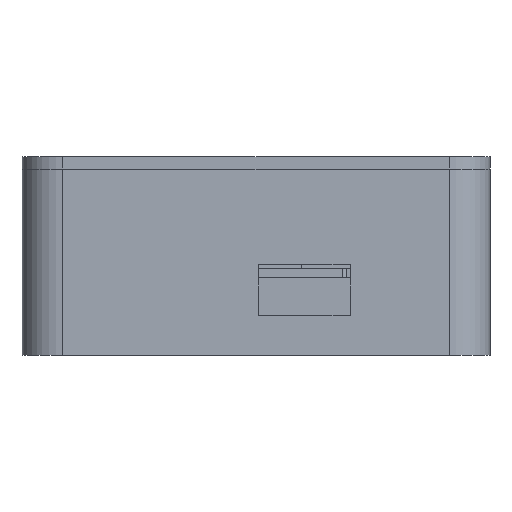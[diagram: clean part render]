
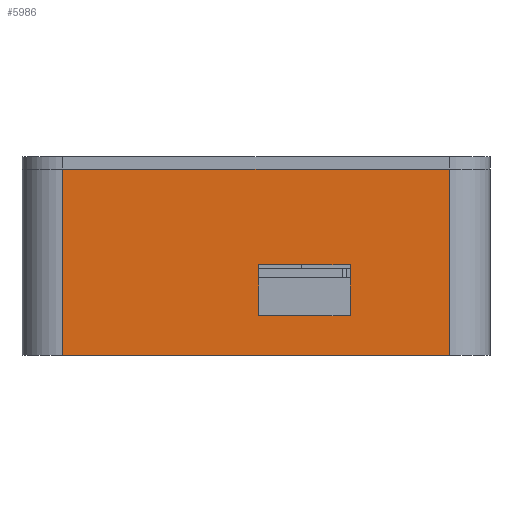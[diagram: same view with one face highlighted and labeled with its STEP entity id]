
A CAD part, front view. The second image highlights one B-rep face of the part: STEP entity #5986.
In plain terms, the highlighted planar face has unit normal (0, -1, 0).
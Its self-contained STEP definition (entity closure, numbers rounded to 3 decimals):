
#74 = PLANE('',#75);
#75 = AXIS2_PLACEMENT_3D('',#76,#77,#78);
#76 = CARTESIAN_POINT('',(-46.,-56.,36.6));
#77 = DIRECTION('',(0.,0.,1.));
#78 = DIRECTION('',(1.,0.,0.));
#102 = CYLINDRICAL_SURFACE('',#103,8.);
#103 = AXIS2_PLACEMENT_3D('',#104,#105,#106);
#104 = CARTESIAN_POINT('',(-38.,-48.,0.));
#105 = DIRECTION('',(0.,0.,1.));
#106 = DIRECTION('',(-1.,-0.,0.));
#130 = PLANE('',#131);
#131 = AXIS2_PLACEMENT_3D('',#132,#133,#134);
#132 = CARTESIAN_POINT('',(-46.,-56.,0.));
#133 = DIRECTION('',(0.,0.,1.));
#134 = DIRECTION('',(1.,0.,0.));
#1727 = VERTEX_POINT('',#1728);
#1728 = CARTESIAN_POINT('',(-38.,-56.,36.6));
#1750 = EDGE_CURVE('',#1727,#1751,#1753,.T.);
#1751 = VERTEX_POINT('',#1752);
#1752 = CARTESIAN_POINT('',(38.,-56.,36.6));
#1753 = SURFACE_CURVE('',#1754,(#1758,#1765),.PCURVE_S1.);
#1754 = LINE('',#1755,#1756);
#1755 = CARTESIAN_POINT('',(-46.,-56.,36.6));
#1756 = VECTOR('',#1757,1.);
#1757 = DIRECTION('',(1.,0.,0.));
#1758 = PCURVE('',#74,#1759);
#1759 = DEFINITIONAL_REPRESENTATION('',(#1760),#1764);
#1760 = LINE('',#1761,#1762);
#1761 = CARTESIAN_POINT('',(0.,0.));
#1762 = VECTOR('',#1763,1.);
#1763 = DIRECTION('',(1.,0.));
#1764 = ( GEOMETRIC_REPRESENTATION_CONTEXT(2) 
PARAMETRIC_REPRESENTATION_CONTEXT() REPRESENTATION_CONTEXT('2D SPACE',''
  ) );
#1765 = PCURVE('',#1766,#1771);
#1766 = PLANE('',#1767);
#1767 = AXIS2_PLACEMENT_3D('',#1768,#1769,#1770);
#1768 = CARTESIAN_POINT('',(-46.,-56.,0.));
#1769 = DIRECTION('',(0.,1.,0.));
#1770 = DIRECTION('',(0.,0.,1.));
#1771 = DEFINITIONAL_REPRESENTATION('',(#1772),#1776);
#1772 = LINE('',#1773,#1774);
#1773 = CARTESIAN_POINT('',(36.6,0.));
#1774 = VECTOR('',#1775,1.);
#1775 = DIRECTION('',(0.,1.));
#1776 = ( GEOMETRIC_REPRESENTATION_CONTEXT(2) 
PARAMETRIC_REPRESENTATION_CONTEXT() REPRESENTATION_CONTEXT('2D SPACE',''
  ) );
#1799 = CYLINDRICAL_SURFACE('',#1800,8.);
#1800 = AXIS2_PLACEMENT_3D('',#1801,#1802,#1803);
#1801 = CARTESIAN_POINT('',(38.,-48.,0.));
#1802 = DIRECTION('',(0.,0.,1.));
#1803 = DIRECTION('',(1.,0.,-0.));
#2784 = VERTEX_POINT('',#2785);
#2785 = CARTESIAN_POINT('',(-38.,-56.,0.));
#2807 = EDGE_CURVE('',#2784,#1727,#2808,.T.);
#2808 = SURFACE_CURVE('',#2809,(#2813,#2820),.PCURVE_S1.);
#2809 = LINE('',#2810,#2811);
#2810 = CARTESIAN_POINT('',(-38.,-56.,0.));
#2811 = VECTOR('',#2812,1.);
#2812 = DIRECTION('',(0.,0.,1.));
#2813 = PCURVE('',#102,#2814);
#2814 = DEFINITIONAL_REPRESENTATION('',(#2815),#2819);
#2815 = LINE('',#2816,#2817);
#2816 = CARTESIAN_POINT('',(1.571,0.));
#2817 = VECTOR('',#2818,1.);
#2818 = DIRECTION('',(0.,1.));
#2819 = ( GEOMETRIC_REPRESENTATION_CONTEXT(2) 
PARAMETRIC_REPRESENTATION_CONTEXT() REPRESENTATION_CONTEXT('2D SPACE',''
  ) );
#2820 = PCURVE('',#1766,#2821);
#2821 = DEFINITIONAL_REPRESENTATION('',(#2822),#2826);
#2822 = LINE('',#2823,#2824);
#2823 = CARTESIAN_POINT('',(0.,8.));
#2824 = VECTOR('',#2825,1.);
#2825 = DIRECTION('',(1.,0.));
#2826 = ( GEOMETRIC_REPRESENTATION_CONTEXT(2) 
PARAMETRIC_REPRESENTATION_CONTEXT() REPRESENTATION_CONTEXT('2D SPACE',''
  ) );
#2889 = EDGE_CURVE('',#2784,#2890,#2892,.T.);
#2890 = VERTEX_POINT('',#2891);
#2891 = CARTESIAN_POINT('',(38.,-56.,0.));
#2892 = SURFACE_CURVE('',#2893,(#2897,#2904),.PCURVE_S1.);
#2893 = LINE('',#2894,#2895);
#2894 = CARTESIAN_POINT('',(-46.,-56.,0.));
#2895 = VECTOR('',#2896,1.);
#2896 = DIRECTION('',(1.,0.,0.));
#2897 = PCURVE('',#130,#2898);
#2898 = DEFINITIONAL_REPRESENTATION('',(#2899),#2903);
#2899 = LINE('',#2900,#2901);
#2900 = CARTESIAN_POINT('',(0.,0.));
#2901 = VECTOR('',#2902,1.);
#2902 = DIRECTION('',(1.,0.));
#2903 = ( GEOMETRIC_REPRESENTATION_CONTEXT(2) 
PARAMETRIC_REPRESENTATION_CONTEXT() REPRESENTATION_CONTEXT('2D SPACE',''
  ) );
#2904 = PCURVE('',#1766,#2905);
#2905 = DEFINITIONAL_REPRESENTATION('',(#2906),#2910);
#2906 = LINE('',#2907,#2908);
#2907 = CARTESIAN_POINT('',(0.,0.));
#2908 = VECTOR('',#2909,1.);
#2909 = DIRECTION('',(0.,1.));
#2910 = ( GEOMETRIC_REPRESENTATION_CONTEXT(2) 
PARAMETRIC_REPRESENTATION_CONTEXT() REPRESENTATION_CONTEXT('2D SPACE',''
  ) );
#5986 = ADVANCED_FACE('',(#5987,#6013),#1766,.F.);
#5987 = FACE_BOUND('',#5988,.F.);
#5988 = EDGE_LOOP('',(#5989,#5990,#5991,#5992));
#5989 = ORIENTED_EDGE('',*,*,#2889,.F.);
#5990 = ORIENTED_EDGE('',*,*,#2807,.T.);
#5991 = ORIENTED_EDGE('',*,*,#1750,.T.);
#5992 = ORIENTED_EDGE('',*,*,#5993,.F.);
#5993 = EDGE_CURVE('',#2890,#1751,#5994,.T.);
#5994 = SURFACE_CURVE('',#5995,(#5999,#6006),.PCURVE_S1.);
#5995 = LINE('',#5996,#5997);
#5996 = CARTESIAN_POINT('',(38.,-56.,0.));
#5997 = VECTOR('',#5998,1.);
#5998 = DIRECTION('',(0.,0.,1.));
#5999 = PCURVE('',#1766,#6000);
#6000 = DEFINITIONAL_REPRESENTATION('',(#6001),#6005);
#6001 = LINE('',#6002,#6003);
#6002 = CARTESIAN_POINT('',(0.,84.));
#6003 = VECTOR('',#6004,1.);
#6004 = DIRECTION('',(1.,0.));
#6005 = ( GEOMETRIC_REPRESENTATION_CONTEXT(2) 
PARAMETRIC_REPRESENTATION_CONTEXT() REPRESENTATION_CONTEXT('2D SPACE',''
  ) );
#6006 = PCURVE('',#1799,#6007);
#6007 = DEFINITIONAL_REPRESENTATION('',(#6008),#6012);
#6008 = LINE('',#6009,#6010);
#6009 = CARTESIAN_POINT('',(-1.571,0.));
#6010 = VECTOR('',#6011,1.);
#6011 = DIRECTION('',(-0.,1.));
#6012 = ( GEOMETRIC_REPRESENTATION_CONTEXT(2) 
PARAMETRIC_REPRESENTATION_CONTEXT() REPRESENTATION_CONTEXT('2D SPACE',''
  ) );
#6013 = FACE_BOUND('',#6014,.F.);
#6014 = EDGE_LOOP('',(#6015,#6043,#6069,#6095));
#6015 = ORIENTED_EDGE('',*,*,#6016,.F.);
#6016 = EDGE_CURVE('',#6017,#6019,#6021,.T.);
#6017 = VERTEX_POINT('',#6018);
#6018 = CARTESIAN_POINT('',(0.5,-56.,17.8));
#6019 = VERTEX_POINT('',#6020);
#6020 = CARTESIAN_POINT('',(18.5,-56.,17.8));
#6021 = SURFACE_CURVE('',#6022,(#6026,#6032),.PCURVE_S1.);
#6022 = LINE('',#6023,#6024);
#6023 = CARTESIAN_POINT('',(-22.75,-56.,17.8));
#6024 = VECTOR('',#6025,1.);
#6025 = DIRECTION('',(1.,0.,0.));
#6026 = PCURVE('',#1766,#6027);
#6027 = DEFINITIONAL_REPRESENTATION('',(#6028),#6031);
#6028 = B_SPLINE_CURVE_WITH_KNOTS('',1,(#6029,#6030),.UNSPECIFIED.,.F.,
  .F.,(2,2),(23.25,41.25),.PIECEWISE_BEZIER_KNOTS.);
#6029 = CARTESIAN_POINT('',(17.8,46.5));
#6030 = CARTESIAN_POINT('',(17.8,64.5));
#6031 = ( GEOMETRIC_REPRESENTATION_CONTEXT(2) 
PARAMETRIC_REPRESENTATION_CONTEXT() REPRESENTATION_CONTEXT('2D SPACE',''
  ) );
#6032 = PCURVE('',#6033,#6038);
#6033 = PLANE('',#6034);
#6034 = AXIS2_PLACEMENT_3D('',#6035,#6036,#6037);
#6035 = CARTESIAN_POINT('',(0.5,-57.,17.8));
#6036 = DIRECTION('',(0.,0.,1.));
#6037 = DIRECTION('',(1.,0.,0.));
#6038 = DEFINITIONAL_REPRESENTATION('',(#6039),#6042);
#6039 = B_SPLINE_CURVE_WITH_KNOTS('',1,(#6040,#6041),.UNSPECIFIED.,.F.,
  .F.,(2,2),(23.25,41.25),.PIECEWISE_BEZIER_KNOTS.);
#6040 = CARTESIAN_POINT('',(0.,1.));
#6041 = CARTESIAN_POINT('',(18.,1.));
#6042 = ( GEOMETRIC_REPRESENTATION_CONTEXT(2) 
PARAMETRIC_REPRESENTATION_CONTEXT() REPRESENTATION_CONTEXT('2D SPACE',''
  ) );
#6043 = ORIENTED_EDGE('',*,*,#6044,.T.);
#6044 = EDGE_CURVE('',#6017,#6045,#6047,.T.);
#6045 = VERTEX_POINT('',#6046);
#6046 = CARTESIAN_POINT('',(0.5,-56.,7.8));
#6047 = SURFACE_CURVE('',#6048,(#6052,#6058),.PCURVE_S1.);
#6048 = LINE('',#6049,#6050);
#6049 = CARTESIAN_POINT('',(0.5,-56.,3.9));
#6050 = VECTOR('',#6051,1.);
#6051 = DIRECTION('',(0.,0.,-1.));
#6052 = PCURVE('',#1766,#6053);
#6053 = DEFINITIONAL_REPRESENTATION('',(#6054),#6057);
#6054 = B_SPLINE_CURVE_WITH_KNOTS('',1,(#6055,#6056),.UNSPECIFIED.,.F.,
  .F.,(2,2),(-13.9,-3.9),.PIECEWISE_BEZIER_KNOTS.);
#6055 = CARTESIAN_POINT('',(17.8,46.5));
#6056 = CARTESIAN_POINT('',(7.8,46.5));
#6057 = ( GEOMETRIC_REPRESENTATION_CONTEXT(2) 
PARAMETRIC_REPRESENTATION_CONTEXT() REPRESENTATION_CONTEXT('2D SPACE',''
  ) );
#6058 = PCURVE('',#6059,#6064);
#6059 = PLANE('',#6060);
#6060 = AXIS2_PLACEMENT_3D('',#6061,#6062,#6063);
#6061 = CARTESIAN_POINT('',(0.5,-57.,7.8));
#6062 = DIRECTION('',(1.,0.,0.));
#6063 = DIRECTION('',(0.,0.,1.));
#6064 = DEFINITIONAL_REPRESENTATION('',(#6065),#6068);
#6065 = B_SPLINE_CURVE_WITH_KNOTS('',1,(#6066,#6067),.UNSPECIFIED.,.F.,
  .F.,(2,2),(-13.9,-3.9),.PIECEWISE_BEZIER_KNOTS.);
#6066 = CARTESIAN_POINT('',(10.,-1.));
#6067 = CARTESIAN_POINT('',(0.,-1.));
#6068 = ( GEOMETRIC_REPRESENTATION_CONTEXT(2) 
PARAMETRIC_REPRESENTATION_CONTEXT() REPRESENTATION_CONTEXT('2D SPACE',''
  ) );
#6069 = ORIENTED_EDGE('',*,*,#6070,.T.);
#6070 = EDGE_CURVE('',#6045,#6071,#6073,.T.);
#6071 = VERTEX_POINT('',#6072);
#6072 = CARTESIAN_POINT('',(18.5,-56.,7.8));
#6073 = SURFACE_CURVE('',#6074,(#6078,#6084),.PCURVE_S1.);
#6074 = LINE('',#6075,#6076);
#6075 = CARTESIAN_POINT('',(-22.75,-56.,7.8));
#6076 = VECTOR('',#6077,1.);
#6077 = DIRECTION('',(1.,0.,0.));
#6078 = PCURVE('',#1766,#6079);
#6079 = DEFINITIONAL_REPRESENTATION('',(#6080),#6083);
#6080 = B_SPLINE_CURVE_WITH_KNOTS('',1,(#6081,#6082),.UNSPECIFIED.,.F.,
  .F.,(2,2),(23.25,41.25),.PIECEWISE_BEZIER_KNOTS.);
#6081 = CARTESIAN_POINT('',(7.8,46.5));
#6082 = CARTESIAN_POINT('',(7.8,64.5));
#6083 = ( GEOMETRIC_REPRESENTATION_CONTEXT(2) 
PARAMETRIC_REPRESENTATION_CONTEXT() REPRESENTATION_CONTEXT('2D SPACE',''
  ) );
#6084 = PCURVE('',#6085,#6090);
#6085 = PLANE('',#6086);
#6086 = AXIS2_PLACEMENT_3D('',#6087,#6088,#6089);
#6087 = CARTESIAN_POINT('',(0.5,-57.,7.8));
#6088 = DIRECTION('',(0.,0.,1.));
#6089 = DIRECTION('',(1.,0.,0.));
#6090 = DEFINITIONAL_REPRESENTATION('',(#6091),#6094);
#6091 = B_SPLINE_CURVE_WITH_KNOTS('',1,(#6092,#6093),.UNSPECIFIED.,.F.,
  .F.,(2,2),(23.25,41.25),.PIECEWISE_BEZIER_KNOTS.);
#6092 = CARTESIAN_POINT('',(0.,1.));
#6093 = CARTESIAN_POINT('',(18.,1.));
#6094 = ( GEOMETRIC_REPRESENTATION_CONTEXT(2) 
PARAMETRIC_REPRESENTATION_CONTEXT() REPRESENTATION_CONTEXT('2D SPACE',''
  ) );
#6095 = ORIENTED_EDGE('',*,*,#6096,.F.);
#6096 = EDGE_CURVE('',#6019,#6071,#6097,.T.);
#6097 = SURFACE_CURVE('',#6098,(#6102,#6108),.PCURVE_S1.);
#6098 = LINE('',#6099,#6100);
#6099 = CARTESIAN_POINT('',(18.5,-56.,3.9));
#6100 = VECTOR('',#6101,1.);
#6101 = DIRECTION('',(0.,0.,-1.));
#6102 = PCURVE('',#1766,#6103);
#6103 = DEFINITIONAL_REPRESENTATION('',(#6104),#6107);
#6104 = B_SPLINE_CURVE_WITH_KNOTS('',1,(#6105,#6106),.UNSPECIFIED.,.F.,
  .F.,(2,2),(-13.9,-3.9),.PIECEWISE_BEZIER_KNOTS.);
#6105 = CARTESIAN_POINT('',(17.8,64.5));
#6106 = CARTESIAN_POINT('',(7.8,64.5));
#6107 = ( GEOMETRIC_REPRESENTATION_CONTEXT(2) 
PARAMETRIC_REPRESENTATION_CONTEXT() REPRESENTATION_CONTEXT('2D SPACE',''
  ) );
#6108 = PCURVE('',#6109,#6114);
#6109 = PLANE('',#6110);
#6110 = AXIS2_PLACEMENT_3D('',#6111,#6112,#6113);
#6111 = CARTESIAN_POINT('',(18.5,-57.,7.8));
#6112 = DIRECTION('',(1.,0.,0.));
#6113 = DIRECTION('',(0.,0.,1.));
#6114 = DEFINITIONAL_REPRESENTATION('',(#6115),#6118);
#6115 = B_SPLINE_CURVE_WITH_KNOTS('',1,(#6116,#6117),.UNSPECIFIED.,.F.,
  .F.,(2,2),(-13.9,-3.9),.PIECEWISE_BEZIER_KNOTS.);
#6116 = CARTESIAN_POINT('',(10.,-1.));
#6117 = CARTESIAN_POINT('',(0.,-1.));
#6118 = ( GEOMETRIC_REPRESENTATION_CONTEXT(2) 
PARAMETRIC_REPRESENTATION_CONTEXT() REPRESENTATION_CONTEXT('2D SPACE',''
  ) );
